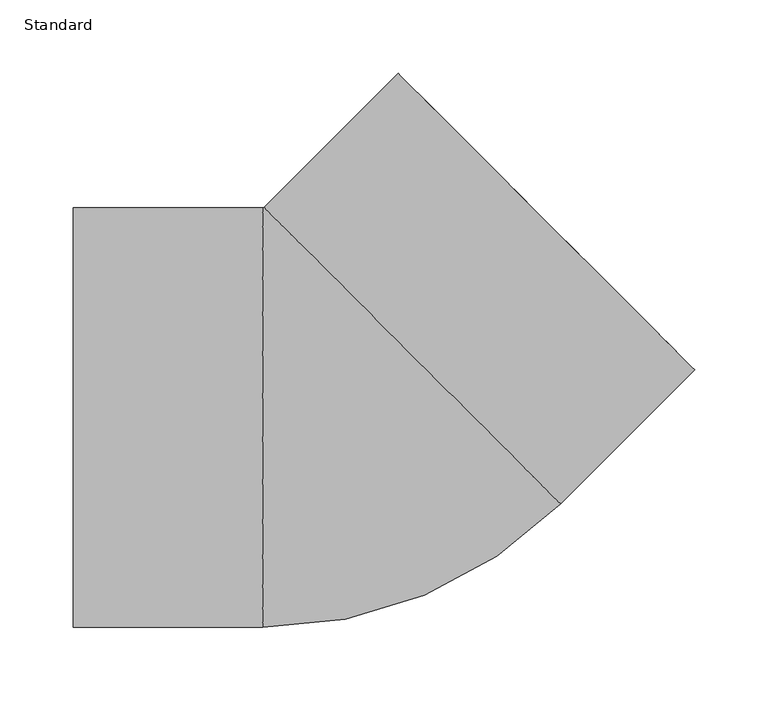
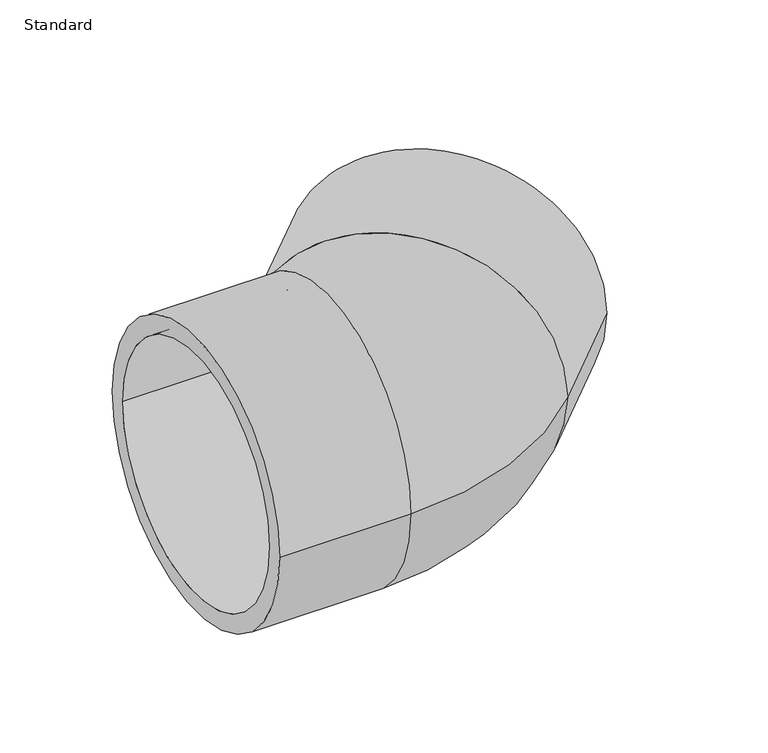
"""IFC4 building model written with IfcOpenShell, lengths in millimetres: pipe fitting geometry, Durapipe_PipeFitting_PVC_Elbow45deg : Standard."""

import ifcopenshell
import ifcopenshell.guid

model = None  # the IFC model being written
_history = None  # IfcOwnerHistory: only IFC2X3 demands one
_inside = {}  # id of a spatial element -> (the spatial element, [elements in it])
_under = {}  # id of a project, library or spatial element -> (it, [spatial elements below it])
_declared = {}  # id of a project -> (the project, [libraries it declares])
_typed = {}  # id of a type object -> (the type object, [elements of that type])
_made_of = {}  # id of a material, layer set ... -> (it, [elements and type objects made of it])


def new_model(schema):
    """Start an empty IFC model of exactly this schema.

    Asked for "IFC4X3", IfcOpenShell would pick the latest addendum, in which some entities
    have other attributes; the version numbers below select the first issue.
    IFC2X3 requires an IfcOwnerHistory on every rooted entity: one is made here for all.
    """
    global model, _history
    if schema == "IFC4X3":
        model = ifcopenshell.file(schema_version=(4, 3, 0, 0))
    else:
        model = ifcopenshell.file(schema=schema)
    _inside.clear()
    _under.clear()
    _declared.clear()
    _typed.clear()
    _made_of.clear()
    _history = None
    if model.schema == "IFC2X3":
        org = make("IfcOrganization", Name="unknown")
        user = make(
            "IfcPersonAndOrganization",
            ThePerson=make("IfcPerson", FamilyName="unknown"),
            TheOrganization=org,
        )
        app = make(
            "IfcApplication",
            ApplicationDeveloper=org,
            Version="unknown",
            ApplicationFullName="unknown",
            ApplicationIdentifier="unknown",
        )
        _history = make(
            "IfcOwnerHistory",
            OwningUser=user,
            OwningApplication=app,
            ChangeAction="ADDED",
            CreationDate=0,
        )
    return model


def make(cls, **values):
    """One entity of the class cls with the attributes given. An attribute that is None is left unset."""
    return model.create_entity(
        cls, **{name: value for name, value in values.items() if value is not None}
    )


def rooted(cls, **values):
    """An entity with a GlobalId (a new one), such as an element, a storey or a relation."""
    return make(cls, GlobalId=ifcopenshell.guid.new(), OwnerHistory=_history, **values)


def si_unit(unit_type, name, prefix=None):
    """IfcSIUnit, for example si_unit("LENGTHUNIT", "METRE", prefix="MILLI")."""
    return make("IfcSIUnit", UnitType=unit_type, Prefix=prefix, Name=name)


def assignment(units):
    """IfcUnitAssignment: the units of a project."""
    return None if units is None else make("IfcUnitAssignment", Units=units)


def point(xyz):
    """IfcCartesianPoint."""
    return None if xyz is None else make("IfcCartesianPoint", Coordinates=xyz)


def direction(xyz):
    """IfcDirection."""
    return None if xyz is None else make("IfcDirection", DirectionRatios=xyz)


def frame(location, z_axis=None, x_axis=None):
    """IfcAxis2Placement3D, a coordinate frame: its origin and axes. An axis left out is left unset."""
    return make(
        "IfcAxis2Placement3D",
        Location=point(location),
        Axis=direction(z_axis),
        RefDirection=direction(x_axis),
    )


def origin():
    """The frame at (0, 0, 0) with its axes left unset."""
    return frame((0.0, 0.0, 0.0))


def place(relative_to, where):
    """IfcLocalPlacement: puts the frame where relative to a parent placement (None: the world)."""
    return make(
        "IfcLocalPlacement", PlacementRelTo=relative_to, RelativePlacement=where
    )


def context(
    kind, dimensions, precision=None, world=None, true_north=None, identifier=None
):
    """IfcGeometricRepresentationContext, for example the 3D "Model" context."""
    return make(
        "IfcGeometricRepresentationContext",
        ContextIdentifier=identifier,
        ContextType=kind,
        CoordinateSpaceDimension=dimensions,
        Precision=precision,
        WorldCoordinateSystem=world,
        TrueNorth=true_north,
    )


def project(units=None, contexts=None):
    """IfcProject with its units and contexts."""
    return rooted(
        "IfcProject",
        Name="project",
        RepresentationContexts=contexts,
        UnitsInContext=assignment(units),
    )


def spatial(cls, under=None, at=None, **own):
    """A site, building, storey or space (cls), placed at a placement, below another one or the project."""
    s = rooted(cls, ObjectPlacement=at, **own)
    if under is not None:
        _under.setdefault(under.id(), (under, []))[1].append(s)
    return s


def polyline(points):
    """IfcPolyline through the points."""
    return make("IfcPolyline", Points=[point(p) for p in points])


def circle_curve(where, radius):
    """IfcCircle in the frame where."""
    return make("IfcCircle", Position=where, Radius=radius)


def ellipse_curve(where, semi_axis1, semi_axis2):
    """IfcEllipse in the frame where."""
    return make(
        "IfcEllipse", Position=where, SemiAxis1=semi_axis1, SemiAxis2=semi_axis2
    )


def trimmed(basis, trim1, trim2, sense, master):
    """IfcTrimmedCurve: the piece of a basis curve between two trims."""
    return make(
        "IfcTrimmedCurve",
        BasisCurve=basis,
        Trim1=trim1,
        Trim2=trim2,
        SenseAgreement=sense,
        MasterRepresentation=master,
    )


def shape(context_of_items, identifier, shape_type, items):
    """IfcShapeRepresentation: the items that make up one representation, for example the "Body"."""
    return make(
        "IfcShapeRepresentation",
        ContextOfItems=context_of_items,
        RepresentationIdentifier=identifier,
        RepresentationType=shape_type,
        Items=items,
    )


def source(mapping_origin, context_of_items, identifier, shape_type, items):
    """IfcRepresentationMap: a shape defined once, which mapped items show again and again."""
    return make(
        "IfcRepresentationMap",
        MappingOrigin=mapping_origin,
        MappedRepresentation=shape(context_of_items, identifier, shape_type, items),
    )


def transform(
    local_origin,
    x_axis=None,
    y_axis=None,
    z_axis=None,
    scale=None,
    scale2=None,
    scale3=None,
    uniform=True,
):
    """IfcCartesianTransformationOperator3D, or its non-uniform kind. x_axis, y_axis, z_axis: its Axis1, 2, 3."""
    if uniform:
        return make(
            "IfcCartesianTransformationOperator3D",
            Axis1=direction(x_axis),
            Axis2=direction(y_axis),
            LocalOrigin=point(local_origin),
            Scale=scale,
            Axis3=direction(z_axis),
        )
    return make(
        "IfcCartesianTransformationOperator3DnonUniform",
        Axis1=direction(x_axis),
        Axis2=direction(y_axis),
        LocalOrigin=point(local_origin),
        Scale=scale,
        Axis3=direction(z_axis),
        Scale2=scale2,
        Scale3=scale3,
    )


def mapped(mapping_source, mapping_target):
    """IfcMappedItem: shows the shape of a source again, moved by a transform."""
    return make(
        "IfcMappedItem", MappingSource=mapping_source, MappingTarget=mapping_target
    )


def made_of(thing, what):
    """Note that an element or type object is made of a material, layer set ...; save() writes the relation."""
    if what is not None:
        _made_of.setdefault(what.id(), (what, []))[1].append(thing)
    return thing


def element(
    cls,
    number,
    at=None,
    inside=None,
    cuts=None,
    type_object=None,
    material=None,
    context=None,
    identifier="Body",
    shape_type=None,
    held_by="IfcProductDefinitionShape",
    body=None,
    shapes=None,
    **own,
):
    """One element of the class cls, such as IfcWall. Its Tag is "e" and its number.

    at: its placement. inside: the storey or other place that contains it. cuts: it is an
    opening in that element (IfcRelVoidsElement). A single representation is given by context,
    identifier, shape_type and body (its items); several are given by shapes. held_by: the class
    of the entity that holds the representations. save() writes the other relations.
    """
    e = rooted(cls, Tag="e%d" % number, ObjectPlacement=at, **own)
    if body is not None:
        shapes = [shape(context, identifier, shape_type, body)]
    if shapes is not None:
        e.Representation = make(held_by, Representations=shapes)
    if inside is not None:
        _inside.setdefault(inside.id(), (inside, []))[1].append(e)
    if cuts is not None:
        rooted(
            "IfcRelVoidsElement", RelatingBuildingElement=cuts, RelatedOpeningElement=e
        )
    if type_object is not None:
        _typed.setdefault(type_object.id(), (type_object, []))[1].append(e)
    return made_of(e, material)


def aggregate(whole, parts):
    """IfcRelAggregates: a whole, such as a stair, and the parts it consists of."""
    return rooted("IfcRelAggregates", RelatingObject=whole, RelatedObjects=parts)


def save(model, path):
    """Write the relations noted so far, then the file.

    IfcRelAggregates (storeys below a building ...), IfcRelContainedInSpatialStructure (elements
    in a storey), IfcRelDefinesByType, IfcRelAssociatesMaterial and IfcRelDeclares: one each for
    every whole, place, type object, material and project.
    """
    for whole, parts in _under.values():
        aggregate(whole, parts)
    for where, things in _inside.values():
        rooted(
            "IfcRelContainedInSpatialStructure",
            RelatedElements=things,
            RelatingStructure=where,
        )
    for kind, things in _typed.values():
        rooted("IfcRelDefinesByType", RelatedObjects=things, RelatingType=kind)
    for what, things in _made_of.values():
        rooted("IfcRelAssociatesMaterial", RelatedObjects=things, RelatingMaterial=what)
    for by, libraries in _declared.values():
        rooted("IfcRelDeclares", RelatingContext=by, RelatedDefinitions=libraries)
    model.write(path)


def plane_surface(at):
    """IfcPlane: the flat surface through the origin of the frame at, square to its z axis."""
    return make("IfcPlane", Position=at)


def cylinder_surface(at, radius):
    """IfcCylindricalSurface: all points at the distance radius from the z axis of the frame at."""
    return make("IfcCylindricalSurface", Position=at, Radius=radius)


def revolved_surface(curve, axis_point, axis_direction):
    """IfcSurfaceOfRevolution: the curve turned about the line through axis_point along axis_direction."""
    return make(
        "IfcSurfaceOfRevolution",
        SweptCurve=make("IfcArbitraryOpenProfileDef", ProfileType="CURVE", Curve=curve),
        AxisPosition=make("IfcAxis1Placement", Location=point(axis_point), Axis=direction(axis_direction)),
    )


def advanced_brep(points, edges, surfaces, faces):
    """IfcAdvancedBrep: a solid bounded by faces that lie on surfaces and meet in shared edges.

    An edge is (start, end): straight between two places in points (the first is 0);
    or (start, end, curve); or (start, end, curve, False) where it runs against its curve.
    A face is (place in surfaces, loops), or (place, loops, False) where it looks against
    its surface's normal. A loop lists edges by number (the first is 1), with a minus sign
    where the edge is run from its end to its start. The first loop is the outer one.
    """
    corners = [point(p) for p in points]
    vertices = [make("IfcVertexPoint", VertexGeometry=c) for c in corners]
    made = []
    for start, end, *more in edges:
        made.append(
            make(
                "IfcEdgeCurve",
                EdgeStart=vertices[start],
                EdgeEnd=vertices[end],
                EdgeGeometry=more[0] if more else make("IfcPolyline", Points=[corners[start], corners[end]]),
                SameSense=more[1] if len(more) > 1 else True,
            )
        )
    hull = []
    for where, loops, *sense in faces:
        bounds = []
        for j, loop in enumerate(loops):
            ring = [make("IfcOrientedEdge", EdgeElement=made[abs(k) - 1], Orientation=k > 0) for k in loop]
            bounds.append(
                make(
                    "IfcFaceOuterBound" if j == 0 else "IfcFaceBound",
                    Bound=make("IfcEdgeLoop", EdgeList=ring),
                    Orientation=True,
                )
            )
        hull.append(make("IfcAdvancedFace", Bounds=bounds, FaceSurface=surfaces[where], SameSense=sense[0] if sense else True))
    return make("IfcAdvancedBrep", Outer=make("IfcClosedShell", CfsFaces=hull))


def standard_4b9ebe76(model_context):
    return source(origin(), model_context, "Body", "AdvancedBrep", [
        advanced_brep(
        [(-189.0, -143.0, 0.0), (-189.0, 143.0, 0.0), (-189.0, -125.0, 0.0), (-189.0, 125.0, 0.0), (-59.7325394, -143.0, 0.0), (-59.7325394, 143.0, 0.0), (143.3535534, -58.878986, 0.0), (-58.878986, 143.3535534, 0.0), (234.7594514, 32.5269119, 0.0), (32.5269119, 234.7594514, 0.0), (45.254834, 222.0315293, 0.0), (222.0315293, 45.254834, 0.0), (-58.0, 125.0, 0.0), (-58.0, -125.0, 0.0), (-58.0, 0.0, 0.0), (-47.3761543, 129.400541, 0.0), (41.0121933, 41.0121933, 0.0), (129.400541, -47.3761543, 0.0)],
        [
            (0, 1, circle_curve(frame((-189.0, 0.0, 0.0), z_axis=(-1.0, 0.0, 0.0), x_axis=(0.0, 1.0, 0.0)), 143.0)),
            (1, 0, circle_curve(frame((-189.0, 0.0, 0.0), z_axis=(-1.0, 0.0, 0.0), x_axis=(0.0, 1.0, 0.0)), 143.0)),
            (2, 3, circle_curve(frame((-189.0, 0.0, 0.0), z_axis=(1.0, 0.0, 0.0), x_axis=(0.0, -1.0, 0.0)), 125.0)),
            (3, 2, circle_curve(frame((-189.0, 0.0, 0.0), z_axis=(1.0, 0.0, 0.0), x_axis=(0.0, -1.0, 0.0)), 125.0)),
            (0, 4),
            (4, 5, circle_curve(frame((-59.7325394, 0.0, 0.0), z_axis=(-1.0, 0.0, 0.0), x_axis=(0.0, 1.0, 0.0)), 143.0)),
            (5, 1),
            (5, 4, circle_curve(frame((-59.7325394, 0.0, 0.0), z_axis=(-1.0, 0.0, 0.0), x_axis=(0.0, 1.0, 0.0)), 143.0)),
            (4, 6, circle_curve(frame((-59.7325394, 144.2071068, 0.0), z_axis=(0.0, 0.0, 1.0), x_axis=(0.0, -1.0, 0.0)), 287.2071068)),
            (6, 7, circle_curve(frame((42.2372837, 42.2372837, 0.0), z_axis=(-0.7071067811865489, -0.7071067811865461, 0.0), x_axis=(-0.7071067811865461, 0.7071067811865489, 0.0)), 143.0)),
            (7, 5, circle_curve(frame((-59.7325394, 144.2071068, 0.0), z_axis=(0.0, 0.0, -1.0), x_axis=(0.0, -1.0, 0.0)), 1.2071068)),
            (7, 6, circle_curve(frame((42.2372837, 42.2372837, 0.0), z_axis=(-0.7071067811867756, -0.7071067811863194, 0.0), x_axis=(-0.7071067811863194, 0.7071067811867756, 0.0)), 143.0)),
            (8, 9, circle_curve(frame((133.6431816, 133.6431816, 0.0), z_axis=(0.7071067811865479, 0.7071067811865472, 0.0), x_axis=(-0.7071067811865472, 0.7071067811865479, 0.0)), 143.0)),
            (9, 8, circle_curve(frame((133.6431816, 133.6431816, 0.0), z_axis=(0.7071067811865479, 0.7071067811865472, 0.0), x_axis=(-0.7071067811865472, 0.7071067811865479, 0.0)), 143.0)),
            (10, 11, circle_curve(frame((133.6431816, 133.6431816, 0.0), z_axis=(-0.7071067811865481, -0.7071067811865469, 0.0), x_axis=(0.7071067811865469, -0.7071067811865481, 0.0)), 125.0)),
            (11, 10, circle_curve(frame((133.6431816, 133.6431816, 0.0), z_axis=(-0.7071067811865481, -0.7071067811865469, 0.0), x_axis=(0.7071067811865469, -0.7071067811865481, 0.0)), 125.0)),
            (6, 8),
            (9, 7),
            (12, 3),
            (2, 13),
            (13, 12, circle_curve(frame((-58.0, 0.0, 0.0), z_axis=(1.0, 0.0, 0.0), x_axis=(0.0, -1.0, 0.0)), 125.0)),
            (12, 13, circle_curve(frame((-58.0, 0.0, 0.0), z_axis=(1.0, 0.0, 0.0), x_axis=(0.0, -1.0, 0.0)), 125.0)),
            (13, 14),
            (14, 12),
            (15, 16),
            (16, 17),
            (17, 15, circle_curve(frame((41.0121933, 41.0121933, 0.0), z_axis=(0.7071067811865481, 0.7071067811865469, 0.0), x_axis=(0.7071067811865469, -0.7071067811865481, 0.0)), 125.0)),
            (15, 17, circle_curve(frame((41.0121933, 41.0121933, 0.0), z_axis=(0.7071067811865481, 0.7071067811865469, 0.0), x_axis=(0.7071067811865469, -0.7071067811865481, 0.0)), 125.0)),
            (17, 11),
            (10, 15),
        ],
        [
            plane_surface(frame((-189.0, 0.0, 0.0), z_axis=(-1.0, 0.0, 0.0), x_axis=(0.0, 0.0, 1.0))),
            cylinder_surface(frame((-189.0, 0.0, 0.0), z_axis=(-1.0, 0.0, 0.0), x_axis=(0.0, 1.0, 0.0)), 143.0),
            revolved_surface(trimmed(ellipse_curve(frame((-59.7325394, 0.0, 0.0), z_axis=(-1.0, 0.0, 0.0), x_axis=(0.0, 1.0, 0.0)), 143.0, 143.0), [point((-59.7325394, -143.0, 0.0))], [point((-59.7325394, 143.0, 0.0))], True, "CARTESIAN"), (-59.7325394, 144.2071068, 0.0), (0.0, 0.0, 1.0)),
            revolved_surface(trimmed(ellipse_curve(frame((-59.7325394, 0.0, 0.0), z_axis=(-1.0, 0.0, 0.0), x_axis=(0.0, 1.0, 0.0)), 143.0, 143.0), [point((-59.7325394, 143.0, 0.0))], [point((-59.7325394, -143.0, 0.0))], True, "CARTESIAN"), (-59.7325394, 144.2071068, 0.0), (0.0, 0.0, 1.0)),
            plane_surface(frame((133.6431816, 133.6431816, 0.0), z_axis=(0.7071067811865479, 0.7071067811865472, 0.0), x_axis=(0.0, 0.0, 1.0))),
            cylinder_surface(frame((42.2372837, 42.2372837, 0.0), z_axis=(-0.7071067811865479, -0.7071067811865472, 0.0), x_axis=(-0.7071067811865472, 0.7071067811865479, 0.0)), 143.0),
            revolved_surface(polyline([(-58.0, -125.0, 0.0), (-189.0, -125.0, 0.0)]), (2000.0, 0.0, 0.0), (1.0, 0.0, 0.0)),
            plane_surface(frame((-58.0, 0.0, 0.0), z_axis=(-1.0, 0.0, 0.0), x_axis=(0.0, -1.0, 0.0))),
            plane_surface(frame((41.0121933, 41.0121933, 0.0), z_axis=(0.7071067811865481, 0.7071067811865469, 0.0), x_axis=(0.7071067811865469, -0.7071067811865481, 0.0))),
            revolved_surface(polyline([(222.03152929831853, 45.25483400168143, 0.0), (129.4005409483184, -47.37615434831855, 0.0)]), (0.0, 0.0, 0.0), (0.7071067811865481, 0.7071067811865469, 0.0)),
        ],
        [
            (0, [[1, 2], [3, 4]]),
            (1, [[-1, 5, 6, 7]]),
            (1, [[-2, -7, 8, -5]]),
            (2, [[-6, 9, 10, 11]]),
            (3, [[-8, -11, 12, -9]]),
            (4, [[13, 14], [15, 16]]),
            (5, [[-10, 17, -14, 18]]),
            (5, [[-12, -18, -13, -17]]),
            (6, [[19, -3, 20, 21]]),
            (6, [[-19, 22, -20, -4]]),
            (7, [[-21, 23, 24]]),
            (7, [[-22, -24, -23]]),
            (8, [[25, 26, 27]]),
            (8, [[-25, 28, -26]]),
            (9, [[-27, 29, -15, 30]]),
            (9, [[-28, -30, -16, -29]]),
        ],
    ),
    ])


if __name__ == "__main__":
    model = new_model("IFC4")
    model_context = context("Model", 3, world=origin())
    ifc_project = project(units=[si_unit("LENGTHUNIT", "METRE", prefix="MILLI")], contexts=[model_context])
    site = spatial("IfcSite", under=ifc_project)
    building = spatial("IfcBuilding", under=site)
    placement = place(None, origin())
    standard_shape = standard_4b9ebe76(model_context)
    element("IfcPipeFitting", 1, ObjectType="Durapipe_PipeFitting_PVC_Elbow45deg : Standard", at=placement, inside=building, context=model_context, shape_type="MappedRepresentation", body=[
        mapped(standard_shape, transform((0.0, 0.0, 0.0), x_axis=(1.0, 0.0, 0.0), y_axis=(0.0, 1.0, 0.0), z_axis=(0.0, 0.0, 1.0))),
    ])
    save(model, "model.ifc")
